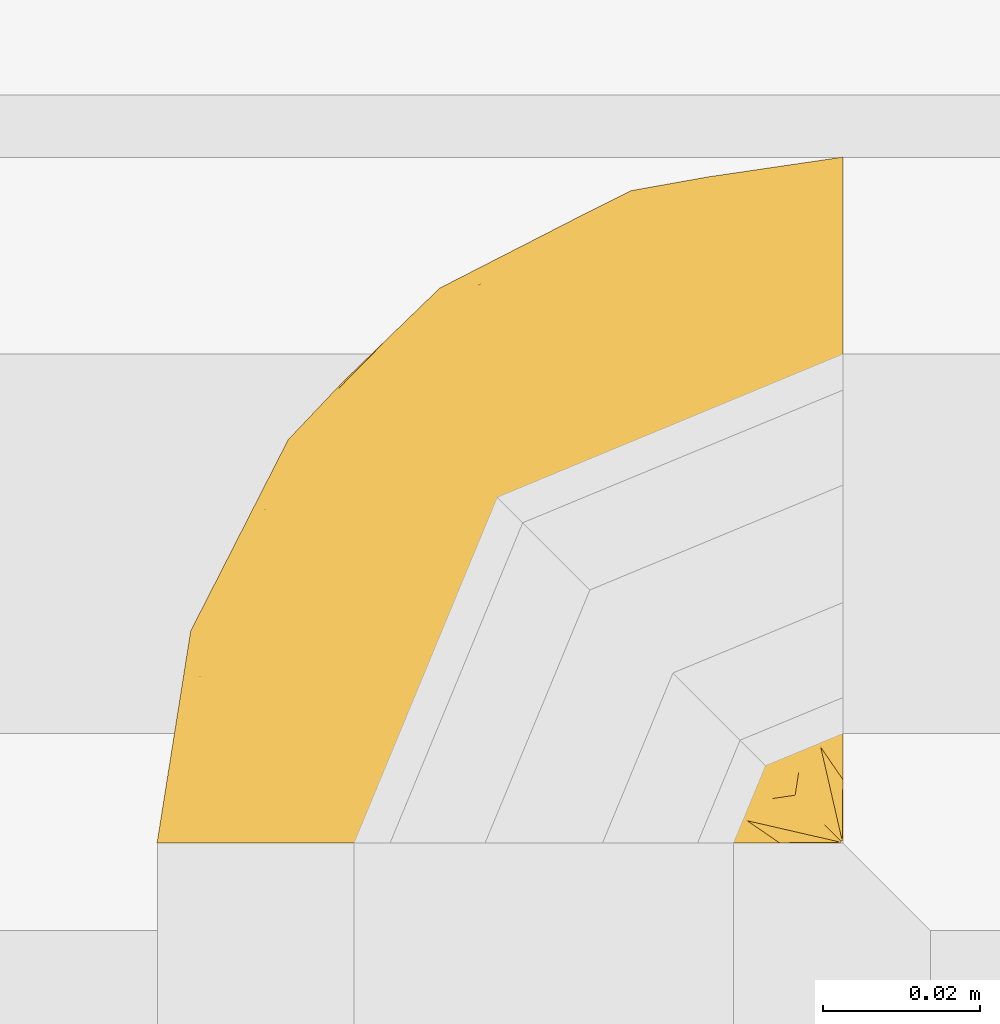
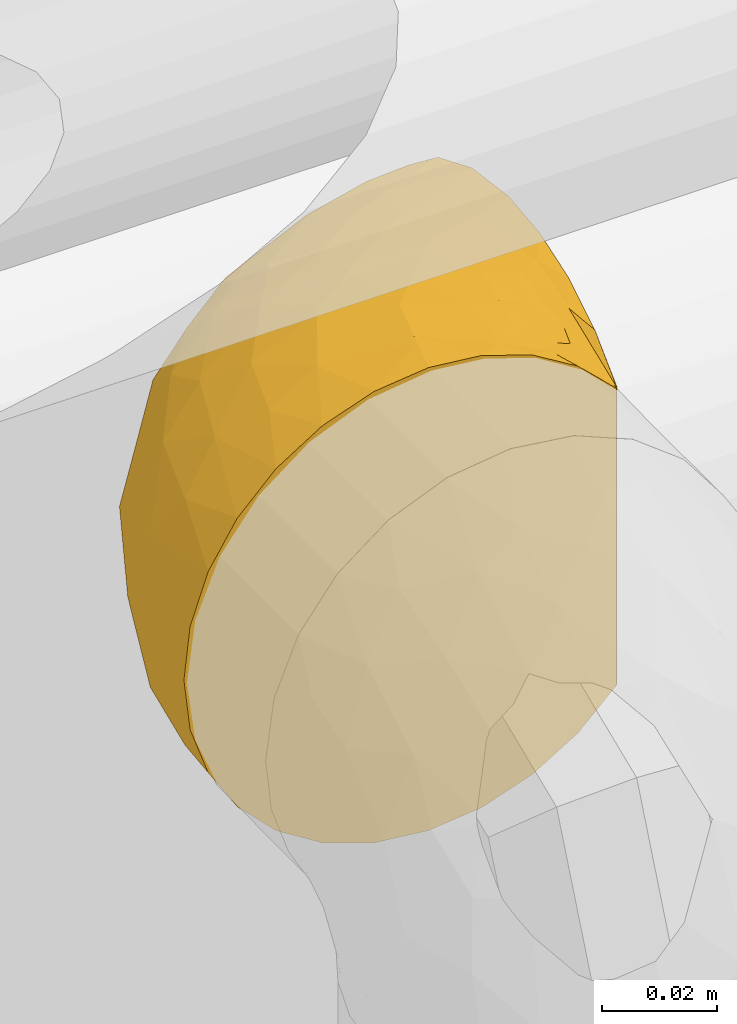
# One storey, part 47 of 94: 1 covering.
"""IFC2X3 building model written with IfcOpenShell, lengths in millimetres."""

import ifcopenshell
import ifcopenshell.guid

model = None  # the IFC model being written
_history = None  # IfcOwnerHistory: only IFC2X3 demands one
_inside = {}  # id of a spatial element -> (the spatial element, [elements in it])
_under = {}  # id of a project, library or spatial element -> (it, [spatial elements below it])
_declared = {}  # id of a project -> (the project, [libraries it declares])
_typed = {}  # id of a type object -> (the type object, [elements of that type])
_made_of = {}  # id of a material, layer set ... -> (it, [elements and type objects made of it])


def new_model(schema):
    """Start an empty IFC model of exactly this schema.

    Asked for "IFC4X3", IfcOpenShell would pick the latest addendum, in which some entities
    have other attributes; the version numbers below select the first issue.
    IFC2X3 requires an IfcOwnerHistory on every rooted entity: one is made here for all.
    """
    global model, _history
    if schema == "IFC4X3":
        model = ifcopenshell.file(schema_version=(4, 3, 0, 0))
    else:
        model = ifcopenshell.file(schema=schema)
    _inside.clear()
    _under.clear()
    _declared.clear()
    _typed.clear()
    _made_of.clear()
    _history = None
    if model.schema == "IFC2X3":
        org = make("IfcOrganization", Name="unknown")
        user = make(
            "IfcPersonAndOrganization",
            ThePerson=make("IfcPerson", FamilyName="unknown"),
            TheOrganization=org,
        )
        app = make(
            "IfcApplication",
            ApplicationDeveloper=org,
            Version="unknown",
            ApplicationFullName="unknown",
            ApplicationIdentifier="unknown",
        )
        _history = make(
            "IfcOwnerHistory",
            OwningUser=user,
            OwningApplication=app,
            ChangeAction="ADDED",
            CreationDate=0,
        )
    return model


def make(cls, **values):
    """One entity of the class cls with the attributes given. An attribute that is None is left unset."""
    return model.create_entity(
        cls, **{name: value for name, value in values.items() if value is not None}
    )


def entity(cls, *values):
    """Any entity or typed value of the class cls, its attributes in the order of the schema. None: left unset."""
    e = model.create_entity(cls)
    for i, value in enumerate(values):
        if value is not None:
            e[i] = value
    return e


def rooted(cls, **values):
    """An entity with a GlobalId (a new one), such as an element, a storey or a relation."""
    return make(cls, GlobalId=ifcopenshell.guid.new(), OwnerHistory=_history, **values)


def si_unit(unit_type, name, prefix=None):
    """IfcSIUnit, for example si_unit("LENGTHUNIT", "METRE", prefix="MILLI")."""
    return make("IfcSIUnit", UnitType=unit_type, Prefix=prefix, Name=name)


def converted_unit(unit_type, name, factor, base, dimensions=None, offset=None):
    """IfcConversionBasedUnit, such as the inch: factor (a typed value) times the base unit."""
    return make(
        "IfcConversionBasedUnit"
        if offset is None
        else "IfcConversionBasedUnitWithOffset",
        ConversionOffset=offset,
        Dimensions=None
        if dimensions is None
        else entity("IfcDimensionalExponents", *dimensions),
        UnitType=unit_type,
        Name=name,
        ConversionFactor=make(
            "IfcMeasureWithUnit", ValueComponent=factor, UnitComponent=base
        ),
    )


def derived_unit(unit_type, elements):
    """IfcDerivedUnit: a product of units, each with its exponent."""
    return make(
        "IfcDerivedUnit",
        Elements=[
            make("IfcDerivedUnitElement", Unit=unit, Exponent=power)
            for unit, power in elements
        ],
        UnitType=unit_type,
    )


def assignment(units):
    """IfcUnitAssignment: the units of a project."""
    return None if units is None else make("IfcUnitAssignment", Units=units)


def point(xyz):
    """IfcCartesianPoint."""
    return None if xyz is None else make("IfcCartesianPoint", Coordinates=xyz)


def direction(xyz):
    """IfcDirection."""
    return None if xyz is None else make("IfcDirection", DirectionRatios=xyz)


def frame(location, z_axis=None, x_axis=None):
    """IfcAxis2Placement3D, a coordinate frame: its origin and axes. An axis left out is left unset."""
    return make(
        "IfcAxis2Placement3D",
        Location=point(location),
        Axis=direction(z_axis),
        RefDirection=direction(x_axis),
    )


def origin():
    """The frame at (0, 0, 0) with its axes left unset."""
    return frame((0.0, 0.0, 0.0))


def place(relative_to, where):
    """IfcLocalPlacement: puts the frame where relative to a parent placement (None: the world)."""
    return make(
        "IfcLocalPlacement", PlacementRelTo=relative_to, RelativePlacement=where
    )


def context(
    kind, dimensions, precision=None, world=None, true_north=None, identifier=None
):
    """IfcGeometricRepresentationContext, for example the 3D "Model" context."""
    return make(
        "IfcGeometricRepresentationContext",
        ContextIdentifier=identifier,
        ContextType=kind,
        CoordinateSpaceDimension=dimensions,
        Precision=precision,
        WorldCoordinateSystem=world,
        TrueNorth=true_north,
    )


def subcontext(parent, identifier, kind, view, scale=None):
    """IfcGeometricRepresentationSubContext, for example "Body" below "Model"."""
    return make(
        "IfcGeometricRepresentationSubContext",
        ContextIdentifier=identifier,
        ContextType=kind,
        ParentContext=parent,
        TargetScale=scale,
        TargetView=view,
    )


def project(units=None, contexts=None):
    """IfcProject with its units and contexts."""
    return rooted(
        "IfcProject",
        Name="project",
        RepresentationContexts=contexts,
        UnitsInContext=assignment(units),
    )


def spatial(cls, under=None, at=None, **own):
    """A site, building, storey or space (cls), placed at a placement, below another one or the project."""
    s = rooted(cls, ObjectPlacement=at, **own)
    if under is not None:
        _under.setdefault(under.id(), (under, []))[1].append(s)
    return s


def faces_of(points, faces, orient=None, outer=None):
    """IfcFace entities. A face is a list of loops; a loop is a list of indices into points, from 0.

    orient and outer hold one flag for each loop. By default every Orientation is true, the
    first loop of a face is its IfcFaceOuterBound and the others are IfcFaceBound.
    """
    made = []
    for i, loops in enumerate(faces):
        bounds = []
        for j, loop in enumerate(loops):
            is_outer = j == 0 if outer is None else outer[i][j]
            bounds.append(
                make(
                    "IfcFaceOuterBound" if is_outer else "IfcFaceBound",
                    Bound=make("IfcPolyLoop", Polygon=[points[k] for k in loop]),
                    Orientation=True if orient is None else orient[i][j],
                )
            )
        made.append(make("IfcFace", Bounds=bounds))
    return made


def faceted_brep(points, faces, orient=None, outer=None, voids=None):
    """IfcFacetedBrep: a solid bounded by flat faces; with voids (closed shells), ...WithVoids."""
    shared = [point(p) for p in points]
    hull = make("IfcClosedShell", CfsFaces=faces_of(shared, faces, orient, outer))
    if voids is None:
        return make("IfcFacetedBrep", Outer=hull)
    return make(
        "IfcFacetedBrepWithVoids",
        Outer=hull,
        Voids=[
            make(cls, CfsFaces=faces_of(shared, fs, o, b)) for cls, fs, o, b in voids
        ],
    )


def shape(context_of_items, identifier, shape_type, items):
    """IfcShapeRepresentation: the items that make up one representation, for example the "Body"."""
    return make(
        "IfcShapeRepresentation",
        ContextOfItems=context_of_items,
        RepresentationIdentifier=identifier,
        RepresentationType=shape_type,
        Items=items,
    )


def material(Name=None, Category=None):
    """IfcMaterial."""
    return make("IfcMaterial", Name=Name, Category=Category)


def made_of(thing, what):
    """Note that an element or type object is made of a material, layer set ...; save() writes the relation."""
    if what is not None:
        _made_of.setdefault(what.id(), (what, []))[1].append(thing)
    return thing


def element(
    cls,
    number,
    at=None,
    inside=None,
    cuts=None,
    type_object=None,
    material=None,
    context=None,
    identifier="Body",
    shape_type=None,
    held_by="IfcProductDefinitionShape",
    body=None,
    shapes=None,
    **own,
):
    """One element of the class cls, such as IfcWall. Its Tag is "e" and its number.

    at: its placement. inside: the storey or other place that contains it. cuts: it is an
    opening in that element (IfcRelVoidsElement). A single representation is given by context,
    identifier, shape_type and body (its items); several are given by shapes. held_by: the class
    of the entity that holds the representations. save() writes the other relations.
    """
    e = rooted(cls, Tag="e%d" % number, ObjectPlacement=at, **own)
    if body is not None:
        shapes = [shape(context, identifier, shape_type, body)]
    if shapes is not None:
        e.Representation = make(held_by, Representations=shapes)
    if inside is not None:
        _inside.setdefault(inside.id(), (inside, []))[1].append(e)
    if cuts is not None:
        rooted(
            "IfcRelVoidsElement", RelatingBuildingElement=cuts, RelatedOpeningElement=e
        )
    if type_object is not None:
        _typed.setdefault(type_object.id(), (type_object, []))[1].append(e)
    return made_of(e, material)


def aggregate(whole, parts):
    """IfcRelAggregates: a whole, such as a stair, and the parts it consists of."""
    return rooted("IfcRelAggregates", RelatingObject=whole, RelatedObjects=parts)


def save(model, path):
    """Write the relations noted so far, then the file.

    IfcRelAggregates (storeys below a building ...), IfcRelContainedInSpatialStructure (elements
    in a storey), IfcRelDefinesByType, IfcRelAssociatesMaterial and IfcRelDeclares: one each for
    every whole, place, type object, material and project.
    """
    for whole, parts in _under.values():
        aggregate(whole, parts)
    for where, things in _inside.values():
        rooted(
            "IfcRelContainedInSpatialStructure",
            RelatedElements=things,
            RelatingStructure=where,
        )
    for kind, things in _typed.values():
        rooted("IfcRelDefinesByType", RelatedObjects=things, RelatingType=kind)
    for what, things in _made_of.values():
        rooted("IfcRelAssociatesMaterial", RelatedObjects=things, RelatingMaterial=what)
    for by, libraries in _declared.values():
        rooted("IfcRelDeclares", RelatingContext=by, RelatedDefinitions=libraries)
    model.write(path)


model = new_model("IFC2X3")

# Units and contexts
model_context = context("Model", 3, precision=0.01, world=origin(), true_north=direction((6.123031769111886e-17, 1.0)))
body_context = subcontext(model_context, "Body", "Model", "MODEL_VIEW")
ifc_project = project(units=[si_unit("LENGTHUNIT", "METRE", prefix="MILLI"), si_unit("AREAUNIT", "SQUARE_METRE"), si_unit("VOLUMEUNIT", "CUBIC_METRE"), converted_unit("PLANEANGLEUNIT", "DEGREE", entity("IfcRatioMeasure", 0.017453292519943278), si_unit("PLANEANGLEUNIT", "RADIAN"), dimensions=[0, 0, 0, 0, 0, 0, 0]), si_unit("MASSUNIT", "GRAM", prefix="KILO"), derived_unit("MASSDENSITYUNIT", [(si_unit("MASSUNIT", "GRAM", prefix="KILO"), 1), (si_unit("LENGTHUNIT", "METRE"), -3)]), derived_unit("IONCONCENTRATIONUNIT", [(si_unit("MASSUNIT", "GRAM", prefix="KILO"), 1), (si_unit("LENGTHUNIT", "METRE"), -3)]), derived_unit("MOMENTOFINERTIAUNIT", [(si_unit("LENGTHUNIT", "METRE"), 4)]), si_unit("TIMEUNIT", "SECOND"), si_unit("FREQUENCYUNIT", "HERTZ"), si_unit("THERMODYNAMICTEMPERATUREUNIT", "DEGREE_CELSIUS"), derived_unit("THERMALTRANSMITTANCEUNIT", [(si_unit("MASSUNIT", "GRAM", prefix="KILO"), 1), (si_unit("THERMODYNAMICTEMPERATUREUNIT", "KELVIN"), -1), (si_unit("TIMEUNIT", "SECOND"), -3)]), derived_unit("THERMALCONDUCTANCEUNIT", [(si_unit("MASSUNIT", "GRAM", prefix="KILO"), 1), (si_unit("THERMODYNAMICTEMPERATUREUNIT", "KELVIN"), -1), (si_unit("TIMEUNIT", "SECOND"), -3), (si_unit("LENGTHUNIT", "METRE"), 1)]), derived_unit("VOLUMETRICFLOWRATEUNIT", [(si_unit("LENGTHUNIT", "METRE"), 3), (si_unit("TIMEUNIT", "SECOND"), -1)]), derived_unit("MASSFLOWRATEUNIT", [(si_unit("MASSUNIT", "GRAM", prefix="KILO"), 1), (si_unit("TIMEUNIT", "SECOND"), -1)]), derived_unit("ROTATIONALFREQUENCYUNIT", [(si_unit("TIMEUNIT", "SECOND"), -1)]), si_unit("ELECTRICCURRENTUNIT", "AMPERE"), si_unit("ELECTRICVOLTAGEUNIT", "VOLT"), si_unit("POWERUNIT", "WATT"), si_unit("FORCEUNIT", "NEWTON", prefix="KILO"), si_unit("ILLUMINANCEUNIT", "LUX"), si_unit("LUMINOUSFLUXUNIT", "LUMEN"), si_unit("LUMINOUSINTENSITYUNIT", "CANDELA"), derived_unit("USERDEFINED", [(si_unit("MASSUNIT", "GRAM", prefix="KILO"), -1), (si_unit("LENGTHUNIT", "METRE"), -2), (si_unit("TIMEUNIT", "SECOND"), 3), (si_unit("LUMINOUSFLUXUNIT", "LUMEN"), 1)]), derived_unit("USERDEFINED", [(si_unit("MASSUNIT", "GRAM", prefix="KILO"), 1), (si_unit("TIMEUNIT", "SECOND"), -3), (si_unit("LENGTHUNIT", "METRE"), 3), (si_unit("ELECTRICCURRENTUNIT", "AMPERE"), -2)]), derived_unit("SOUNDPOWERUNIT", [(si_unit("MASSUNIT", "GRAM", prefix="KILO"), 1), (si_unit("TIMEUNIT", "SECOND"), -3), (si_unit("LENGTHUNIT", "METRE"), 2)]), derived_unit("SOUNDPRESSUREUNIT", [(si_unit("MASSUNIT", "GRAM", prefix="KILO"), 1), (si_unit("LENGTHUNIT", "METRE"), -1), (si_unit("TIMEUNIT", "SECOND"), -2)]), derived_unit("LINEARVELOCITYUNIT", [(si_unit("LENGTHUNIT", "METRE"), 1), (si_unit("TIMEUNIT", "SECOND"), -1)]), si_unit("PRESSUREUNIT", "PASCAL"), derived_unit("USERDEFINED", [(si_unit("MASSUNIT", "GRAM", prefix="KILO"), 1), (si_unit("LENGTHUNIT", "METRE"), -2), (si_unit("TIMEUNIT", "SECOND"), -2)]), derived_unit("LINEARFORCEUNIT", [(si_unit("MASSUNIT", "GRAM", prefix="KILO"), 1), (si_unit("TIMEUNIT", "SECOND"), -2)]), derived_unit("PLANARFORCEUNIT", [(si_unit("MASSUNIT", "GRAM", prefix="KILO"), 1), (si_unit("LENGTHUNIT", "METRE"), -1), (si_unit("TIMEUNIT", "SECOND"), -2)]), derived_unit("SPECIFICHEATCAPACITYUNIT", [(si_unit("THERMODYNAMICTEMPERATUREUNIT", "KELVIN"), -1), (si_unit("LENGTHUNIT", "METRE"), 2), (si_unit("TIMEUNIT", "SECOND"), -2)]), derived_unit("HEATINGVALUEUNIT", [(si_unit("LENGTHUNIT", "METRE"), 2), (si_unit("TIMEUNIT", "SECOND"), -2)]), derived_unit("VAPORPERMEABILITYUNIT", [(si_unit("LENGTHUNIT", "METRE"), -1), (si_unit("TIMEUNIT", "SECOND"), 1)]), derived_unit("DYNAMICVISCOSITYUNIT", [(si_unit("MASSUNIT", "GRAM", prefix="KILO"), 1), (si_unit("TIMEUNIT", "SECOND"), -1), (si_unit("LENGTHUNIT", "METRE"), -1)]), derived_unit("THERMALEXPANSIONCOEFFICIENTUNIT", [(si_unit("THERMODYNAMICTEMPERATUREUNIT", "KELVIN"), -1)]), derived_unit("MODULUSOFELASTICITYUNIT", [(si_unit("MASSUNIT", "GRAM", prefix="KILO"), 1), (si_unit("LENGTHUNIT", "METRE"), -1), (si_unit("TIMEUNIT", "SECOND"), -2)]), derived_unit("ISOTHERMALMOISTURECAPACITYUNIT", [(si_unit("LENGTHUNIT", "METRE"), 3), (si_unit("MASSUNIT", "GRAM", prefix="KILO"), -1)]), derived_unit("MOISTUREDIFFUSIVITYUNIT", [(si_unit("TIMEUNIT", "SECOND"), -1), (si_unit("LENGTHUNIT", "METRE"), 2)])], contexts=[model_context])

# Site, building, storey
site_placement = place(None, origin())
site = spatial("IfcSite", under=ifc_project, at=site_placement, Name="Default", CompositionType="ELEMENT")
building_placement = place(site_placement, origin())
building = spatial("IfcBuilding", under=site, at=building_placement, CompositionType="ELEMENT")
storey_placement = place(building_placement, origin())
storey = spatial("IfcBuildingStorey", under=building, at=storey_placement, Name="Niveau 0", CompositionType="ELEMENT", Elevation=0.0)

# Covering
ifc_material = material(Name="Isolation - Laine minérale")
covering_placement = place(storey_placement, frame((-8122.89113779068, 9987.250352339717, 2500.745272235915)))
element("IfcCovering", 1, at=covering_placement, inside=storey, material=ifc_material, Name="Isolation des canalisations:Laine minérale", ObjectType="Isolation des canalisations:Laine minérale", PredefinedType="INSULATION", context=body_context, shape_type="Brep", body=[
    faceted_brep([(29.412134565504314, 1.5952722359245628, -6.466386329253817), (20.093252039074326, 1.5952722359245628, -12.324234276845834), (12.312548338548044, 1.5952722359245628, -20.107905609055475), (6.459227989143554, 1.5952722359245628, -29.426998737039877), (2.8261403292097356, 1.5952722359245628, -39.814613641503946), (1.5952722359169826, 1.5952722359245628, -50.7452722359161), (2.8288129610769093, 1.5952722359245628, -61.68764083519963), (6.466386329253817, 1.5952722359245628, -72.07840990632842), (12.324234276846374, 1.5952722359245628, -81.39729243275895), (20.107905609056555, 1.5952722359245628, -89.17799613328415), (29.42699873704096, 1.5952722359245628, -95.03131648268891), (39.81461364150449, 1.5952722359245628, -98.66440414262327), (50.74527223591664, 1.5952722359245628, -99.89527223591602), (61.40435822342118, 1.5952722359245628, -98.72554303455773), (71.55257335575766, 1.5952722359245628, -95.27367575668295), (80.70896636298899, 1.5952722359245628, -89.70550239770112), (88.43165280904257, 1.5952722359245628, -82.29617110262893), (88.43165280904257, 1.5952722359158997, -79.85190220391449), (88.43165280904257, 1.5952722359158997, -78.07484973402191), (88.43165280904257, 1.5952722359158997, -76.2977972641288), (88.43165280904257, 1.5952722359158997, -74.7982038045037), (88.43165280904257, 1.5952722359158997, -73.29861034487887), (88.43165280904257, 1.5952722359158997, -70.29942342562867), (88.43165280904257, 1.5952722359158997, -67.30023650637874), (88.43165280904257, 1.5952722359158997, -64.30104958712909), (88.43165280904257, 1.5952722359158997, -61.301862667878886), (88.43165280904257, 1.5952722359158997, -59.80226920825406), (88.43165280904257, 1.5952722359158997, -58.30267574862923), (88.43165280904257, 1.5952722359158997, -55.858406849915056), (88.43165280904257, 1.5952722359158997, -53.41413795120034), (88.43165280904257, 1.5952722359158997, -50.96986905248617), (88.43165280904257, 1.5952722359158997, -48.52560015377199), (88.43165280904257, 1.5952722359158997, -46.08133125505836), (88.43165280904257, 1.5952722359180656, -43.63706235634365), (88.43165280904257, 1.5952722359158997, -41.19279345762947), (88.43165280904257, 1.5952722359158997, -38.74852455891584), (88.43165280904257, 1.5952722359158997, -36.30425566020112), (88.43165280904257, 1.5952722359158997, -33.85998676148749), (88.43165280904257, 1.5952722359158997, -31.41571786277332), (88.43165280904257, 1.5952722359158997, -28.971448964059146), (88.43165280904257, 1.5952722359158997, -26.52718006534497), (88.43165280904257, 1.5952722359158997, -24.082911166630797), (88.43165280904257, 1.5952722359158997, -21.638642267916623), (88.43165280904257, 1.5952722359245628, -19.194373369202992), (80.69235262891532, 1.5952722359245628, -11.772270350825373), (71.53113811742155, 1.5952722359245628, -6.2068587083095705), (61.383900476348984, 1.5952722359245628, -2.760461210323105), (50.74527223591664, 1.5952722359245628, -1.5952722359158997), (39.802903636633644, 1.5952722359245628, -2.828812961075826), (88.74527223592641, 1.908891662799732, -82.29617110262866), (88.74527223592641, 9.641963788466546, -89.71348765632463), (88.74527223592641, 18.798688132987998, -95.27868204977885), (88.74527223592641, 28.94385431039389, -98.7272458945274), (88.74527223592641, 39.59527223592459, -99.89527223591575), (88.74527223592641, 52.31622830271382, -98.22052659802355), (88.74527223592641, 64.1702722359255, -93.31042083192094), (88.74527223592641, 74.34957053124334, -85.49957053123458), (88.74527223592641, 82.16042083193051, -75.32027223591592), (88.74527223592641, 87.07052659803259, -63.46622830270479), (88.74527223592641, 88.74527223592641, -50.7452722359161), (88.74527223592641, 87.07052659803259, -38.02431616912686), (88.74527223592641, 82.16042083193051, -26.17027223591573), (88.74527223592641, 74.34957053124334, -15.990973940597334), (88.74527223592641, 64.1702722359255, -8.180123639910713), (88.74527223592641, 52.31622830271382, -3.2700178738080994), (88.74527223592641, 39.59527223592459, -1.5952722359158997), (88.74527223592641, 28.94385431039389, -2.7632985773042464), (88.74527223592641, 18.798688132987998, -6.211862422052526), (88.74527223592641, 9.641963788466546, -11.777056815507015), (88.74527223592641, 1.908891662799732, -19.19437336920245), (88.74527223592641, 1.908891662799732, -21.63864226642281), (88.74527223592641, 1.908891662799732, -23.138235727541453), (88.74527223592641, 1.908891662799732, -25.110166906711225), (88.74527223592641, 1.908891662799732, -27.082098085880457), (88.74527223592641, 1.908891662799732, -29.05402926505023), (88.74527223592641, 1.908891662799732, -31.02596044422), (88.74527223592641, 1.908891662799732, -32.99789162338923), (88.74527223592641, 1.908891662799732, -34.969822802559), (88.74527223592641, 1.908891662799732, -36.94175398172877), (88.74527223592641, 1.908891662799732, -38.913685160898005), (88.74527223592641, 1.908891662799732, -40.88561634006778), (88.74527223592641, 1.908891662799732, -42.85754751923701), (88.74527223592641, 1.908891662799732, -44.82947869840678), (88.74527223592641, 1.908891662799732, -46.80140987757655), (88.74527223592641, 1.908891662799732, -48.773341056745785), (88.74527223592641, 1.908891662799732, -50.74527223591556), (88.74527223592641, 1.908891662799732, -52.71720341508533), (88.74527223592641, 1.908891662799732, -54.689134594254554), (88.74527223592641, 1.908891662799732, -56.661065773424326), (88.74527223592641, 1.908891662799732, -58.632996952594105), (88.74527223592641, 1.908891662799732, -60.60492813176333), (88.74527223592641, 1.908891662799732, -62.5768593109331), (88.74527223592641, 1.908891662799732, -64.54879049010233), (88.74527223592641, 1.908891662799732, -66.5207216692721), (88.74527223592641, 1.908891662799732, -69.5199085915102), (88.74527223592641, 1.908891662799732, -72.51909551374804), (88.74527223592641, 1.908891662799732, -74.9633644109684), (88.74527223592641, 1.908891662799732, -77.40763330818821), (88.74527223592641, 1.908891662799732, -79.85190220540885), (88.53090125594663, 1.8241875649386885, -47.73720476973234), (88.52210831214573, 1.8156242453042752, -49.65777912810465), (88.52122178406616, 1.8147227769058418, -40.01764283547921), (88.52777998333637, 1.8212241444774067, -37.92771907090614), (88.54092532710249, 1.8331787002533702, -53.48951745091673), (88.53506454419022, 1.828016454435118, -24.240550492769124), (88.49130573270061, 1.7792781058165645, -20.791406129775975), (88.51810292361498, 1.8114926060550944, -59.05247302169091), (88.52350981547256, 1.817034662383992, -78.62976787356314), (88.52548149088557, 1.81898896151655, -76.79032803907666), (88.5165327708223, 1.8098308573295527, -30.120454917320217), (88.52674320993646, 1.820221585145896, -28.08670561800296), (88.50469006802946, 1.7964621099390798, -57.08054182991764), (88.52964682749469, 1.8230063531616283, -63.562825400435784), (88.53317608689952, 1.826296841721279, -61.67745907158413), (88.51585328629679, 1.8091041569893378, -65.53475654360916), (88.52914218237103, 1.8225274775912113, -51.73123795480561), (88.52350981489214, 1.817034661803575, -22.3884388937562), (88.52591800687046, 1.8194169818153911, -80.46296948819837), (88.53664906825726, 1.8294378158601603, -45.815443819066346), (88.53747885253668, 1.8301744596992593, -33.98385679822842), (88.532731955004, 1.825888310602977, -35.87599747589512), (88.53426299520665, 1.8272900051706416, -67.38596354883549), (88.5337000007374, 1.8267767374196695, -43.93836928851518), (88.53493173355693, 1.8278964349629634, -26.096132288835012), (88.52350981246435, 1.8170346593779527, -19.19437336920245), (88.49487979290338, 1.747915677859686, -19.194373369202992), (88.46624977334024, 1.6787966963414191, -19.194373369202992), (88.52350981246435, 1.8170346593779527, -82.29617110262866), (88.59262879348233, 1.845664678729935, -82.29617110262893), (88.66174777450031, 1.8742946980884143, -82.29617110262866), (88.51000647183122, 1.8026539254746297, -69.27838714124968), (88.53042484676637, 1.8237404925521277, -32.054952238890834), (88.5224676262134, 1.8159875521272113, -55.242256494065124), (88.52470424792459, 1.8182226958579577, -41.99993111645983), (88.5057932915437, 1.7977740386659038, -72.07129245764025), (88.5274414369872, 1.8208977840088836, -74.04840730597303), (88.66174777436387, 1.8742946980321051, -19.194373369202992), (88.5926287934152, 1.8456646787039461, -19.194373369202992), (88.46624977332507, 1.6787966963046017, -82.29617110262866), (88.4948797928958, 1.7479156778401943, -82.29617110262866), (85.22080157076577, 23.495219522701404, -97.28026065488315), (85.93611072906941, 13.747756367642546, -92.74636463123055), (81.0780784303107, 22.409779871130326, -97.28026068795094), (83.13289242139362, 10.562522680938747, -91.53496062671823), (79.24527223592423, 37.049754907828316, -99.89527223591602), (81.28890223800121, 37.59734391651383, -99.89527223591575), (55.83630689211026, 20.595272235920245, -99.89527223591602), (66.39553001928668, 16.02014974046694, -98.55504664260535), (67.9404040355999, 9.26167767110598, -97.27709237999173), (69.74527223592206, 34.50423757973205, -99.89527223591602), (80.67378389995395, 9.667897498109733, -92.08523869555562), (79.7889209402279, 7.2029124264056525, -91.52705697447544), (74.32109358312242, 23.944746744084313, -98.554902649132), (66.85470593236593, 5.119390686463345, -97.27709230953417), (76.60336361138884, 4.4028932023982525, -92.73988957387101), (79.64911936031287, 17.541506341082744, -95.79991667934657), (52.743200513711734, 9.051642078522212, -99.89527223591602), (53.29078956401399, 11.095272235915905, -99.8952722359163), (73.61168493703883, 16.728859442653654, -97.00792481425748), (62.790789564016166, 27.549754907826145, -99.89527223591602), (73.87988529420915, 12.071559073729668, -95.7244871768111), (75.32913676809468, 47.623950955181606, -98.87881941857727), (65.9107418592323, 44.00144112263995, -98.83301276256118), (53.847614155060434, 58.899698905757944, -90.35896612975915), (59.13651173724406, 72.66771487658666, -80.6658965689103), (71.166122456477, 67.20155656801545, -89.73858973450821), (67.0054527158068, 54.07984229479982, -96.15395204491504), (78.8805128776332, 57.54110754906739, -96.15395161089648), (37.51978749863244, 72.10110329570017, -50.7452722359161), (61.81444117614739, 84.47984763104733, -50.7452722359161), (53.875201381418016, 80.24801351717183, -61.15080493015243), (25.784943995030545, 13.851436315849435, -92.3663011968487), (36.24418276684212, 15.165285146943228, -97.13949915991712), (29.56288236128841, 60.77765845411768, -68.84359020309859), (30.77068194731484, 55.38583609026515, -77.72163513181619), (15.292222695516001, 43.89737524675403, -65.87522637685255), (71.31385843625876, 86.12648113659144, -59.79441061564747), (47.2410274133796, 73.23168363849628, -70.98072673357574), (43.50389303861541, 64.74738573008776, -79.74211405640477), (75.2898525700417, 77.40373146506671, -80.66589650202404), (67.10273039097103, 82.14716981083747, -69.55416171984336), (37.099200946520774, 52.829115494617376, -85.50619835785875), (44.51517687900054, 48.878965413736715, -91.98084112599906), (33.70477633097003, 40.607220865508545, -90.08477530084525), (44.05169469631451, 28.769953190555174, -97.76701228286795), (30.044081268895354, 27.448445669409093, -92.36630165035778), (18.312338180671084, 19.800365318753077, -85.50619671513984), (5.8606968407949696, 28.52610329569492, -50.7452722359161), (7.041406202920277, 22.71562192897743, -66.98519337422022), (25.614469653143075, 42.31748570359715, -82.95460966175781), (15.886915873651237, 33.68382770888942, -76.90235033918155), (10.600409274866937, 16.806973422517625, -76.9023505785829), (38.50378416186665, 71.07858054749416, -62.41468564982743), (25.345180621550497, 60.332491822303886, -59.14435954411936), (53.163504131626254, 33.37332146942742, -98.92729244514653), (18.239441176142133, 52.82075697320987, -50.7452722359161), (52.694698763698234, 43.46542968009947, -96.76809515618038), (58.17589226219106, 79.20017463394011, -31.93638344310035), (71.70091272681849, 86.24488809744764, -41.905436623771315), (54.57433327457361, 80.83807017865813, -41.62511866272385), (42.49805076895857, 72.52816019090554, -35.352647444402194), (75.06235489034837, 83.87397883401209, -31.936382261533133), (24.5251412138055, 35.798660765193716, -15.997222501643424), (25.786342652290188, 48.02046276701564, -22.50195470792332), (15.878231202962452, 33.68736739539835, -24.603113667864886), (37.089792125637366, 52.83844921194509, -15.997599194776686), (35.71336208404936, 59.75598123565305, -23.203879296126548), (36.231508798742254, 15.17001623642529, -4.355753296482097), (70.53804152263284, 45.55141709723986, -2.5375085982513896), (69.74527223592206, 34.50423757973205, -1.5952722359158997), (79.24527223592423, 37.049754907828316, -1.5952722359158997), (7.0362994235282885, 22.71467774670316, -34.51880576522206), (69.24086116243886, 76.07714087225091, -20.82464795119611), (30.030512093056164, 27.454651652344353, -9.133617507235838), (25.77024521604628, 13.854008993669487, -9.133617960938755), (76.87540408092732, 68.47065883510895, -11.751955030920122), (74.00473445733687, 56.45843349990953, -5.336592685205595), (48.41047025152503, 68.0885450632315, -21.865705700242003), (62.62553049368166, 64.29272071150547, -11.751954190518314), (31.220776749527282, 66.01125638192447, -41.9823852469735), (29.560345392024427, 60.78019542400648, -32.65601578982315), (79.82666983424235, 48.01911236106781, -2.477909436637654), (10.591274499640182, 16.809109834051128, -24.603113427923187), (15.287247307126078, 43.900853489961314, -35.63402191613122), (18.29950680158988, 19.803681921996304, -15.997600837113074), (44.04987097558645, 28.78672684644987, -3.726659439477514), (55.83630689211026, 20.595272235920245, -1.5952722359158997), (54.23536248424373, 35.48506655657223, -2.7012349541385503), (62.790789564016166, 27.549754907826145, -1.5952722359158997), (52.743200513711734, 9.051642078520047, -1.5952722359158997), (53.29078956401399, 11.095272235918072, -1.5952722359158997), (48.412115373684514, 53.16291239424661, -9.986684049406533), (64.143047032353, 52.0530845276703, -5.0637132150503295), (40.10640265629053, 41.40103739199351, -8.340625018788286), (62.89073418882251, 40.721221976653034, -2.407172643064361), (47.672778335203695, 60.91677547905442, -15.399468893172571), (55.38955823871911, 45.94061161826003, -4.812375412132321), (81.07807840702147, 22.409778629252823, -4.210284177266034), (78.26566497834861, 16.464254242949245, -5.763920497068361), (74.32072912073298, 23.943292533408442, -2.935886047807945), (85.22080145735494, 23.49521891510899, -4.210284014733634), (85.93611080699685, 13.747755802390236, -8.744180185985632), (83.13257230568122, 10.564867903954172, -9.954133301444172), (82.68198005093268, 7.656624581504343, -11.377788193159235), (73.61706381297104, 16.72348133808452, -4.485349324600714), (79.75777141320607, 7.216517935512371, -9.940890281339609), (67.91845358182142, 9.263185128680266, -4.2062740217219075), (66.83334757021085, 5.119593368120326, -4.206273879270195), (76.58449008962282, 4.4058785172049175, -8.739069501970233), (66.39770760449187, 16.01862728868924, -2.9361309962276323), (72.78382599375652, 10.692146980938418, -5.684713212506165)], [[[0, 1, 2, 3, 4, 5, 6, 7, 8, 9, 10, 11, 12, 13, 14, 15, 16, 17, 18, 19, 20, 21, 22, 23, 24, 25, 26, 27, 28, 29, 30, 31, 32, 33, 34, 35, 36, 37, 38, 39, 40, 41, 42, 43, 44, 45, 46, 47, 48]], [[49, 50, 51, 52, 53, 54, 55, 56, 57, 58, 59, 60, 61, 62, 63, 64, 65, 66, 67, 68, 69, 70, 71, 72, 73, 74, 75, 76, 77, 78, 79, 80, 81, 82, 83, 84, 85, 86, 87, 88, 89, 90, 91, 92, 93, 94, 95, 96, 97, 98]], [[99, 100, 84]], [[101, 102, 35]], [[86, 103, 87]], [[72, 71, 104]], [[105, 70, 69]], [[27, 26, 106]], [[18, 107, 108]], [[109, 74, 110]], [[28, 27, 111]], [[25, 112, 113]], [[108, 97, 96]], [[114, 93, 92]], [[103, 86, 115]], [[97, 107, 98]], [[116, 71, 70]], [[107, 17, 117]], [[79, 102, 101]], [[99, 118, 32]], [[77, 119, 120]], [[121, 93, 114]], [[112, 91, 113]], [[89, 111, 106]], [[40, 39, 110]], [[107, 97, 108]], [[32, 118, 122]], [[92, 91, 112]], [[37, 120, 119]], [[85, 115, 86]], [[70, 105, 116]], [[72, 123, 73]], [[105, 124, 125, 126, 43]], [[117, 17, 16]], [[41, 116, 42]], [[117, 127, 128, 129, 49]], [[110, 123, 40]], [[42, 116, 105]], [[121, 23, 130]], [[24, 114, 112]], [[114, 24, 23]], [[104, 123, 72]], [[92, 112, 114]], [[104, 116, 41]], [[24, 112, 25]], [[110, 73, 123]], [[36, 120, 37]], [[40, 123, 41]], [[75, 74, 109]], [[131, 76, 75]], [[119, 131, 37]], [[109, 110, 39]], [[109, 39, 38]], [[74, 73, 110]], [[123, 104, 41]], [[116, 104, 71]], [[26, 25, 113]], [[113, 90, 106]], [[88, 87, 132]], [[113, 106, 26]], [[77, 76, 119]], [[132, 111, 88]], [[106, 111, 27]], [[132, 28, 111]], [[88, 111, 89]], [[89, 106, 90]], [[113, 91, 90]], [[131, 119, 76]], [[38, 37, 131]], [[120, 36, 102]], [[131, 109, 38]], [[109, 131, 75]], [[79, 78, 102]], [[78, 120, 102]], [[78, 77, 120]], [[122, 81, 133]], [[36, 35, 102]], [[33, 122, 133]], [[80, 79, 101]], [[34, 101, 35]], [[132, 29, 28]], [[81, 80, 133]], [[29, 103, 115]], [[30, 29, 115]], [[87, 103, 132]], [[100, 115, 85]], [[31, 30, 100]], [[115, 100, 30]], [[32, 31, 99]], [[118, 82, 122]], [[100, 85, 84]], [[99, 83, 118]], [[82, 118, 83]], [[33, 32, 122]], [[83, 99, 84]], [[100, 99, 31]], [[34, 33, 133]], [[122, 82, 81]], [[133, 101, 34]], [[101, 133, 80]], [[134, 95, 94]], [[23, 121, 114]], [[132, 103, 29]], [[121, 94, 93]], [[94, 121, 130]], [[98, 107, 117]], [[108, 20, 19, 18]], [[21, 135, 134]], [[20, 135, 21]], [[134, 135, 95]], [[108, 96, 135]], [[108, 135, 20]], [[135, 96, 95]], [[134, 22, 21]], [[130, 22, 134]], [[42, 105, 43]], [[105, 69, 136, 137, 124]], [[98, 117, 49]], [[117, 16, 138, 139, 127]], [[18, 17, 107]], [[94, 130, 134]], [[22, 130, 23]], [[140, 141, 142]], [[143, 129, 128, 127]], [[52, 144, 145, 53]], [[146, 147, 148]], [[142, 149, 144]], [[150, 127, 151]], [[51, 140, 52]], [[142, 152, 149]], [[52, 140, 144]], [[129, 143, 141]], [[14, 13, 153]], [[148, 151, 154]], [[155, 141, 143]], [[151, 138, 154]], [[14, 153, 154]], [[16, 15, 138]], [[13, 12, 156, 157]], [[152, 155, 158]], [[159, 158, 147]], [[157, 148, 153]], [[14, 154, 15]], [[50, 49, 129]], [[50, 129, 141]], [[141, 51, 50]], [[160, 148, 147]], [[146, 148, 157]], [[138, 15, 154]], [[150, 158, 155]], [[151, 127, 139, 138]], [[141, 140, 51]], [[144, 140, 142]], [[157, 153, 13]], [[154, 153, 148]], [[149, 152, 159]], [[160, 147, 158]], [[147, 146, 159]], [[155, 152, 142]], [[159, 152, 158]], [[127, 150, 143]], [[160, 150, 151]], [[150, 160, 158]], [[148, 160, 151]], [[141, 155, 142]], [[155, 143, 150]], [[156, 12, 11]], [[161, 149, 162]], [[163, 164, 165]], [[166, 167, 161]], [[168, 169, 170]], [[55, 165, 56]], [[171, 172, 10]], [[173, 174, 175]], [[58, 176, 59]], [[173, 177, 178]], [[179, 57, 56]], [[55, 167, 165]], [[170, 180, 177]], [[57, 179, 180]], [[167, 55, 54]], [[181, 182, 183]], [[184, 146, 172]], [[172, 185, 184]], [[186, 185, 171]], [[186, 9, 8]], [[172, 146, 157, 156]], [[172, 11, 10]], [[173, 178, 174]], [[6, 187, 188]], [[189, 186, 190]], [[191, 186, 8]], [[175, 190, 188]], [[168, 192, 193]], [[189, 190, 174]], [[57, 180, 58]], [[8, 7, 191]], [[188, 7, 6]], [[6, 5, 187]], [[190, 191, 188]], [[159, 194, 162]], [[175, 187, 195]], [[177, 180, 164]], [[10, 9, 171]], [[176, 180, 170]], [[156, 11, 172]], [[163, 165, 166]], [[179, 165, 164]], [[54, 53, 145]], [[185, 189, 183]], [[184, 196, 194]], [[188, 191, 7]], [[186, 191, 190]], [[186, 171, 9]], [[172, 171, 185]], [[187, 175, 188]], [[193, 175, 195]], [[196, 163, 166]], [[163, 181, 178]], [[162, 166, 161]], [[184, 185, 183]], [[178, 177, 164]], [[177, 192, 170]], [[177, 173, 192]], [[176, 170, 169]], [[59, 176, 169]], [[58, 180, 176]], [[193, 192, 173]], [[168, 170, 192]], [[175, 193, 173]], [[168, 193, 195]], [[163, 178, 164]], [[184, 194, 146]], [[178, 181, 174]], [[189, 174, 181]], [[175, 174, 190]], [[183, 189, 181]], [[186, 189, 185]], [[182, 181, 163]], [[183, 182, 184]], [[163, 196, 182]], [[184, 182, 196]], [[165, 179, 56]], [[180, 179, 164]], [[161, 54, 145]], [[165, 167, 166]], [[54, 161, 167]], [[161, 145, 144, 149]], [[159, 162, 149]], [[196, 166, 162]], [[162, 194, 196]], [[146, 194, 159]], [[197, 198, 199]], [[59, 169, 198]], [[197, 199, 200]], [[198, 197, 201]], [[202, 203, 204]], [[61, 60, 201]], [[205, 206, 203]], [[0, 48, 207]], [[208, 209, 210]], [[187, 4, 211]], [[201, 212, 61]], [[213, 214, 207]], [[62, 215, 63]], [[63, 215, 216]], [[3, 211, 4]], [[217, 218, 212]], [[219, 220, 200]], [[216, 208, 221]], [[3, 2, 222]], [[63, 216, 64]], [[62, 61, 212]], [[211, 3, 222]], [[5, 4, 187]], [[217, 197, 200]], [[203, 223, 204]], [[2, 1, 224]], [[225, 213, 207]], [[204, 222, 224]], [[1, 0, 214]], [[204, 224, 202]], [[207, 226, 225]], [[227, 226, 228]], [[223, 211, 204]], [[214, 224, 1]], [[202, 224, 213]], [[48, 47, 229]], [[207, 229, 230, 226]], [[211, 223, 187]], [[218, 231, 232]], [[48, 229, 207]], [[205, 233, 231]], [[233, 213, 225]], [[217, 212, 197]], [[215, 212, 218]], [[228, 234, 227]], [[233, 205, 202]], [[208, 234, 209]], [[64, 221, 65]], [[235, 205, 231]], [[207, 214, 0]], [[224, 214, 213]], [[224, 222, 2]], [[211, 222, 204]], [[219, 223, 220]], [[187, 223, 195]], [[227, 233, 225]], [[234, 228, 209]], [[231, 233, 236]], [[221, 208, 210]], [[232, 208, 216]], [[65, 221, 210]], [[216, 221, 64]], [[233, 202, 213]], [[203, 202, 205]], [[205, 235, 206]], [[223, 203, 220]], [[200, 206, 217]], [[220, 203, 206]], [[232, 231, 236]], [[235, 218, 217]], [[212, 215, 62]], [[216, 215, 218]], [[218, 232, 216]], [[234, 232, 236]], [[232, 234, 208]], [[234, 236, 227]], [[233, 227, 236]], [[226, 227, 225]], [[198, 201, 60]], [[212, 201, 197]], [[59, 198, 60]], [[198, 169, 199]], [[169, 168, 199]], [[219, 200, 199]], [[219, 199, 168]], [[200, 220, 206]], [[168, 195, 219]], [[223, 219, 195]], [[218, 235, 231]], [[206, 235, 217]], [[66, 65, 210]], [[209, 237, 210]], [[238, 237, 239]], [[67, 240, 241]], [[242, 136, 241]], [[243, 137, 242]], [[243, 244, 245]], [[66, 240, 67]], [[136, 69, 68]], [[136, 68, 241]], [[246, 226, 230]], [[67, 241, 68]], [[210, 237, 240]], [[45, 247, 46]], [[209, 239, 237]], [[246, 247, 248]], [[46, 247, 230]], [[249, 250, 244]], [[239, 228, 244]], [[226, 246, 249]], [[250, 248, 245]], [[44, 43, 126]], [[237, 242, 241]], [[248, 45, 44]], [[44, 126, 248]], [[46, 230, 229, 47]], [[245, 126, 125]], [[126, 245, 248]], [[243, 124, 137]], [[210, 240, 66]], [[241, 240, 237]], [[248, 247, 45]], [[230, 247, 246]], [[226, 249, 228]], [[238, 239, 244]], [[239, 209, 228]], [[250, 249, 246]], [[228, 249, 244]], [[243, 242, 238]], [[136, 242, 137]], [[124, 243, 125]], [[125, 243, 245]], [[243, 238, 244]], [[237, 238, 242]], [[248, 250, 246]], [[244, 250, 245]]]),
])

save(model, "model.ifc")
